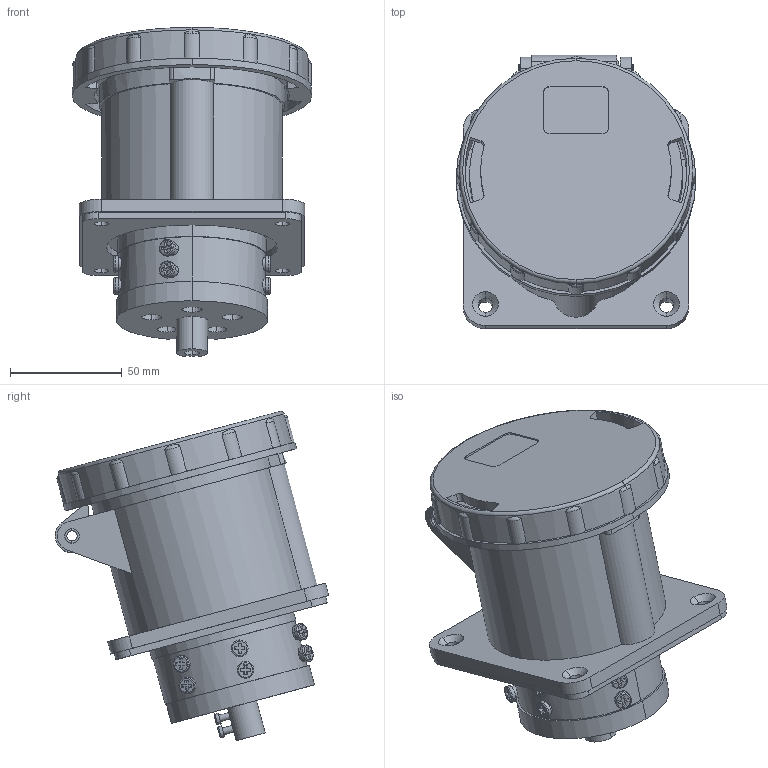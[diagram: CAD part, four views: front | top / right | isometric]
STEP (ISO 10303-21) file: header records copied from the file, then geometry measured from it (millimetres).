
FILE_DESCRIPTION (( 'STEP AP203' ), '1' );
FILE_NAME ('TLR63653.STEP', '2018-10-24T19:05:24', ( '' ), ( '' ), 'SwSTEP 2.0', 'SolidWorks 2012', '' );
FILE_SCHEMA (( 'CONFIG_CONTROL_DESIGN' ));
Length unit declared in the file: millimetre
Products named in the file (1): TLR63653
Bounding box: 107.4 x 122.48 x 147.41 mm (x, y, z)
Volume: 655836.5 mm3; surface area: 97233 mm2
Topology: 1 solids, 1 shells, 546 faces, 1372 edges, 882 vertices
Faces by surface type: plane 282, cylinder 207, torus 45, cone 8, bspline 4
Entity records: 18639 total; most frequent: CARTESIAN_POINT 5265, DIRECTION 2822, ORIENTED_EDGE 2744, EDGE_CURVE 1372, AXIS2_PLACEMENT_3D 999, VERTEX_POINT 882, VECTOR 824, LINE 824
